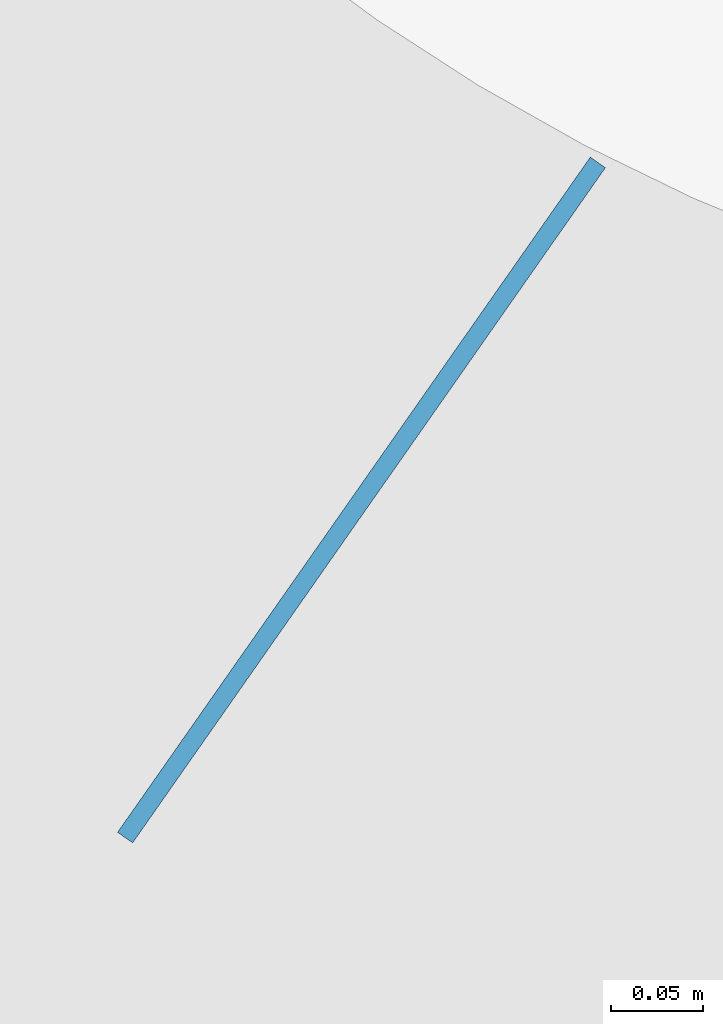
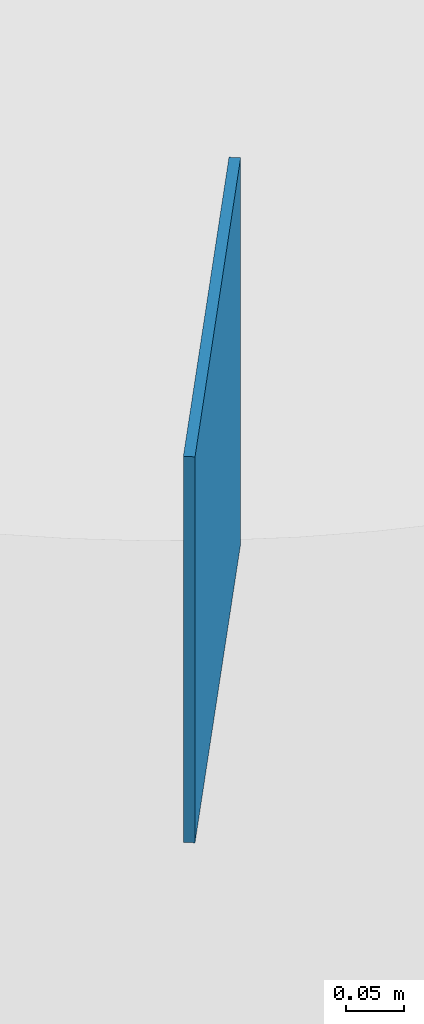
# One storey, part 38 of 75: 1 wall.
"""IFC2X3 building model written with IfcOpenShell, lengths in metres."""

from ifc_helpers import new_model, entity, si_unit, converted_unit, derived_unit, direction, frame, frame_2d, origin, place, context, subcontext, project, spatial, rectangle, extrude, material, layer, layer_set, layer_usage, type_object, element, save


model = new_model("IFC2X3")

# Units and contexts
model_context = context("Model", 3, precision=1e-05, world=origin(), true_north=direction((6.123031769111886e-17, 1.0)))
body_context = subcontext(model_context, "Body", "Model", "MODEL_VIEW")
ifc_project = project(units=[si_unit("LENGTHUNIT", "METRE"), si_unit("AREAUNIT", "SQUARE_METRE"), si_unit("VOLUMEUNIT", "CUBIC_METRE"), converted_unit("PLANEANGLEUNIT", "DEGREE", entity("IfcRatioMeasure", 0.017453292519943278), si_unit("PLANEANGLEUNIT", "RADIAN"), dimensions=[0, 0, 0, 0, 0, 0, 0]), si_unit("MASSUNIT", "GRAM", prefix="KILO"), derived_unit("MASSDENSITYUNIT", [(si_unit("MASSUNIT", "GRAM", prefix="KILO"), 1), (si_unit("LENGTHUNIT", "METRE"), -3)]), derived_unit("IONCONCENTRATIONUNIT", [(si_unit("MASSUNIT", "GRAM", prefix="KILO"), 1), (si_unit("LENGTHUNIT", "METRE"), -3)]), derived_unit("MOMENTOFINERTIAUNIT", [(si_unit("LENGTHUNIT", "METRE"), 4)]), si_unit("TIMEUNIT", "SECOND"), si_unit("FREQUENCYUNIT", "HERTZ"), si_unit("THERMODYNAMICTEMPERATUREUNIT", "DEGREE_CELSIUS"), derived_unit("THERMALTRANSMITTANCEUNIT", [(si_unit("MASSUNIT", "GRAM", prefix="KILO"), 1), (si_unit("THERMODYNAMICTEMPERATUREUNIT", "KELVIN"), -1), (si_unit("TIMEUNIT", "SECOND"), -3)]), derived_unit("THERMALCONDUCTANCEUNIT", [(si_unit("MASSUNIT", "GRAM", prefix="KILO"), 1), (si_unit("THERMODYNAMICTEMPERATUREUNIT", "KELVIN"), -1), (si_unit("TIMEUNIT", "SECOND"), -3), (si_unit("LENGTHUNIT", "METRE"), 1)]), derived_unit("VOLUMETRICFLOWRATEUNIT", [(si_unit("LENGTHUNIT", "METRE"), 3), (si_unit("TIMEUNIT", "SECOND"), -1)]), derived_unit("MASSFLOWRATEUNIT", [(si_unit("MASSUNIT", "GRAM", prefix="KILO"), 1), (si_unit("TIMEUNIT", "SECOND"), -1)]), derived_unit("ROTATIONALFREQUENCYUNIT", [(si_unit("TIMEUNIT", "SECOND"), -1)]), si_unit("ELECTRICCURRENTUNIT", "AMPERE"), si_unit("ELECTRICVOLTAGEUNIT", "VOLT"), si_unit("POWERUNIT", "WATT"), si_unit("FORCEUNIT", "NEWTON", prefix="KILO"), si_unit("ILLUMINANCEUNIT", "LUX"), si_unit("LUMINOUSFLUXUNIT", "LUMEN"), si_unit("LUMINOUSINTENSITYUNIT", "CANDELA"), derived_unit("USERDEFINED", [(si_unit("MASSUNIT", "GRAM", prefix="KILO"), -1), (si_unit("LENGTHUNIT", "METRE"), -2), (si_unit("TIMEUNIT", "SECOND"), 3), (si_unit("LUMINOUSFLUXUNIT", "LUMEN"), 1)]), derived_unit("USERDEFINED", [(si_unit("MASSUNIT", "GRAM", prefix="KILO"), 1), (si_unit("TIMEUNIT", "SECOND"), -3), (si_unit("LENGTHUNIT", "METRE"), 3), (si_unit("ELECTRICCURRENTUNIT", "AMPERE"), -2)]), derived_unit("SOUNDPOWERUNIT", [(si_unit("MASSUNIT", "GRAM", prefix="KILO"), 1), (si_unit("TIMEUNIT", "SECOND"), -3), (si_unit("LENGTHUNIT", "METRE"), 2)]), derived_unit("SOUNDPRESSUREUNIT", [(si_unit("MASSUNIT", "GRAM", prefix="KILO"), 1), (si_unit("LENGTHUNIT", "METRE"), -1), (si_unit("TIMEUNIT", "SECOND"), -2)]), derived_unit("LINEARVELOCITYUNIT", [(si_unit("LENGTHUNIT", "METRE"), 1), (si_unit("TIMEUNIT", "SECOND"), -1)]), si_unit("PRESSUREUNIT", "PASCAL"), derived_unit("USERDEFINED", [(si_unit("MASSUNIT", "GRAM", prefix="KILO"), 1), (si_unit("LENGTHUNIT", "METRE"), -2), (si_unit("TIMEUNIT", "SECOND"), -2)]), derived_unit("LINEARFORCEUNIT", [(si_unit("MASSUNIT", "GRAM", prefix="KILO"), 1), (si_unit("TIMEUNIT", "SECOND"), -2)]), derived_unit("PLANARFORCEUNIT", [(si_unit("MASSUNIT", "GRAM", prefix="KILO"), 1), (si_unit("LENGTHUNIT", "METRE"), -1), (si_unit("TIMEUNIT", "SECOND"), -2)]), derived_unit("SPECIFICHEATCAPACITYUNIT", [(si_unit("THERMODYNAMICTEMPERATUREUNIT", "KELVIN"), -1), (si_unit("LENGTHUNIT", "METRE"), 2), (si_unit("TIMEUNIT", "SECOND"), -2)]), derived_unit("HEATINGVALUEUNIT", [(si_unit("LENGTHUNIT", "METRE"), 2), (si_unit("TIMEUNIT", "SECOND"), -2)]), derived_unit("VAPORPERMEABILITYUNIT", [(si_unit("LENGTHUNIT", "METRE"), -1), (si_unit("TIMEUNIT", "SECOND"), 1)]), derived_unit("DYNAMICVISCOSITYUNIT", [(si_unit("MASSUNIT", "GRAM", prefix="KILO"), 1), (si_unit("TIMEUNIT", "SECOND"), -1), (si_unit("LENGTHUNIT", "METRE"), -1)]), derived_unit("THERMALEXPANSIONCOEFFICIENTUNIT", [(si_unit("THERMODYNAMICTEMPERATUREUNIT", "KELVIN"), -1)]), derived_unit("MODULUSOFELASTICITYUNIT", [(si_unit("MASSUNIT", "GRAM", prefix="KILO"), 1), (si_unit("LENGTHUNIT", "METRE"), -1), (si_unit("TIMEUNIT", "SECOND"), -2)]), derived_unit("ISOTHERMALMOISTURECAPACITYUNIT", [(si_unit("LENGTHUNIT", "METRE"), 3), (si_unit("MASSUNIT", "GRAM", prefix="KILO"), -1)]), derived_unit("MOISTUREDIFFUSIVITYUNIT", [(si_unit("TIMEUNIT", "SECOND"), -1), (si_unit("LENGTHUNIT", "METRE"), 2)])], contexts=[model_context])

# Site, building, storey
site_placement = place(None, origin())
site = spatial("IfcSite", under=ifc_project, at=site_placement, Name="Default", CompositionType="ELEMENT")
building_placement = place(site_placement, origin())
building = spatial("IfcBuilding", under=site, at=building_placement, Name="Projeto", CompositionType="ELEMENT")
storey_placement = place(building_placement, origin())
storey = spatial("IfcBuildingStorey", under=building, at=storey_placement, Name="Nível 1", CompositionType="ELEMENT", Elevation=0.0)

# Wall
ifc_material = material(Name=".ARQ.PIS - CONTRAPISO.ARMADO")
ifc_layer = layer(ifc_material, 0.01)
ifc_layer_set = layer_set([ifc_layer], Name="Parede básica:15cm 2")
ifc_layer_usage = layer_usage(ifc_layer_set, "AXIS2", "NEGATIVE", 0.005000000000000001)
wall_type = type_object("IfcWallType", Name="Parede básica:15cm 2", PredefinedType="STANDARD", material=ifc_layer_set)
wall_placement = place(storey_placement, frame((26.549960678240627, -12.722570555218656, 0.0), z_axis=(0.0, 0.0, 1.0), x_axis=(-0.5735764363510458, -0.8191520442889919, 0.0)))
element("IfcWallStandardCase", 1, at=wall_placement, inside=storey, type_object=wall_type, material=ifc_layer_usage, Name="Parede básica:15cm 2", ObjectType="Parede básica:15cm 2", context=body_context, shape_type="SweptSolid", body=[
    extrude(rectangle(XDim=0.4475983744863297, YDim=0.010000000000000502, at=frame_2d((0.22379918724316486, 3.469446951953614e-18), x_axis=(-1.0, 0.0))), origin(), (0.0, 0.0, 1.0), 0.4028341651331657),
])

save(model, "model.ifc")
